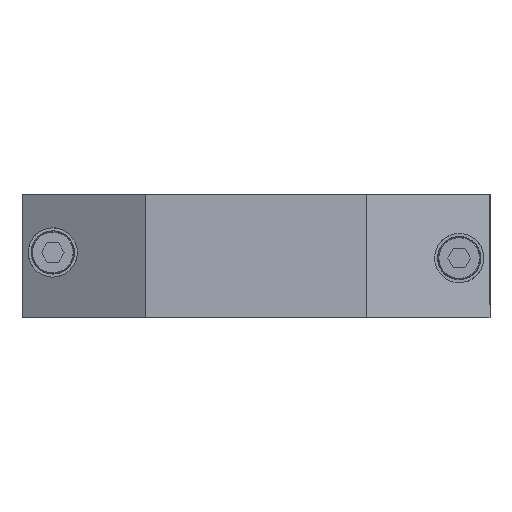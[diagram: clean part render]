
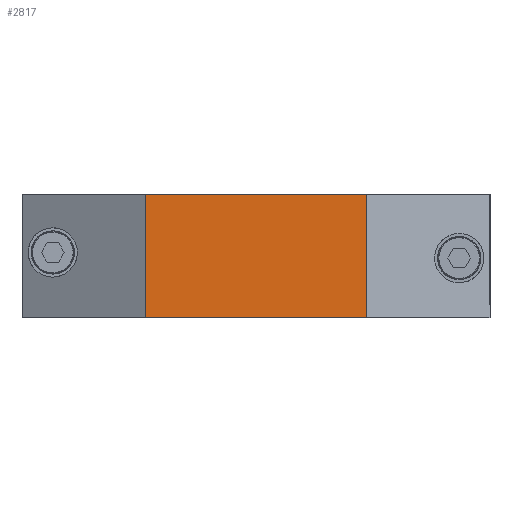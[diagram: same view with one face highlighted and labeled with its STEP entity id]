
A CAD part, left-side view. The second image highlights one B-rep face of the part: STEP entity #2817.
In plain terms, the highlighted planar face has unit normal (-1, 0, 0).
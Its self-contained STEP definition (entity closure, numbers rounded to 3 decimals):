
#127 = CARTESIAN_POINT ( 'NONE',  ( -33., -18., 0. ) ) ;
#736 = EDGE_CURVE ( 'NONE', #3832, #1904, #7551, .T. ) ;
#936 = CARTESIAN_POINT ( 'NONE',  ( -33., -18., 0. ) ) ;
#1394 = FACE_OUTER_BOUND ( 'NONE', #2176, .T. ) ;
#1461 = CARTESIAN_POINT ( 'NONE',  ( -33., -18., 20. ) ) ;
#1848 = CARTESIAN_POINT ( 'NONE',  ( -33., -38., 20. ) ) ;
#1904 = VERTEX_POINT ( 'NONE', #936 ) ;
#2126 = DIRECTION ( 'NONE',  ( 0., -1., 0. ) ) ;
#2176 = EDGE_LOOP ( 'NONE', ( #4399, #7217, #4916, #7128 ) ) ;
#2440 = DIRECTION ( 'NONE',  ( 0., 0., -1. ) ) ;
#2498 = VECTOR ( 'NONE', #5635, 1000. ) ;
#2817 = ADVANCED_FACE ( 'NONE', ( #1394 ), #3642, .F. ) ;
#3123 = LINE ( 'NONE', #127, #6019 ) ;
#3270 = CARTESIAN_POINT ( 'NONE',  ( -33., 18., 0. ) ) ;
#3317 = VECTOR ( 'NONE', #2126, 1000. ) ;
#3642 = PLANE ( 'NONE',  #7627 ) ;
#3664 = EDGE_CURVE ( 'NONE', #1904, #7101, #3123, .T. ) ;
#3709 = DIRECTION ( 'NONE',  ( 1., 0., 0. ) ) ;
#3832 = VERTEX_POINT ( 'NONE', #6241 ) ;
#4205 = DIRECTION ( 'NONE',  ( 0., 0., 1. ) ) ;
#4399 = ORIENTED_EDGE ( 'NONE', *, *, #7077, .F. ) ;
#4648 = CARTESIAN_POINT ( 'NONE',  ( -33., 18., 20. ) ) ;
#4916 = ORIENTED_EDGE ( 'NONE', *, *, #736, .T. ) ;
#5474 = EDGE_CURVE ( 'NONE', #3832, #6834, #6225, .T. ) ;
#5635 = DIRECTION ( 'NONE',  ( 0., 0., 1. ) ) ;
#5840 = VECTOR ( 'NONE', #6015, 1000. ) ;
#5858 = CARTESIAN_POINT ( 'NONE',  ( -33., -38., 0. ) ) ;
#6015 = DIRECTION ( 'NONE',  ( 0., -1., 0. ) ) ;
#6019 = VECTOR ( 'NONE', #4205, 1000. ) ;
#6225 = LINE ( 'NONE', #3270, #2498 ) ;
#6241 = CARTESIAN_POINT ( 'NONE',  ( -33., 18., 0. ) ) ;
#6834 = VERTEX_POINT ( 'NONE', #4648 ) ;
#7077 = EDGE_CURVE ( 'NONE', #6834, #7101, #7193, .T. ) ;
#7101 = VERTEX_POINT ( 'NONE', #1461 ) ;
#7128 = ORIENTED_EDGE ( 'NONE', *, *, #3664, .T. ) ;
#7193 = LINE ( 'NONE', #1848, #5840 ) ;
#7217 = ORIENTED_EDGE ( 'NONE', *, *, #5474, .F. ) ;
#7241 = CARTESIAN_POINT ( 'NONE',  ( -33., -38., 20. ) ) ;
#7551 = LINE ( 'NONE', #5858, #3317 ) ;
#7627 = AXIS2_PLACEMENT_3D ( 'NONE', #7241, #3709, #2440 ) ;
